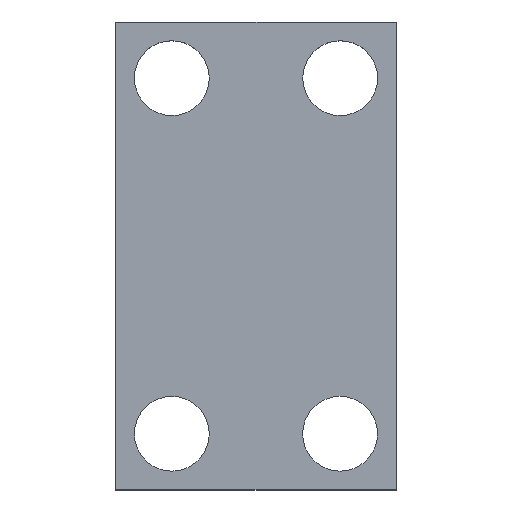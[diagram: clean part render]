
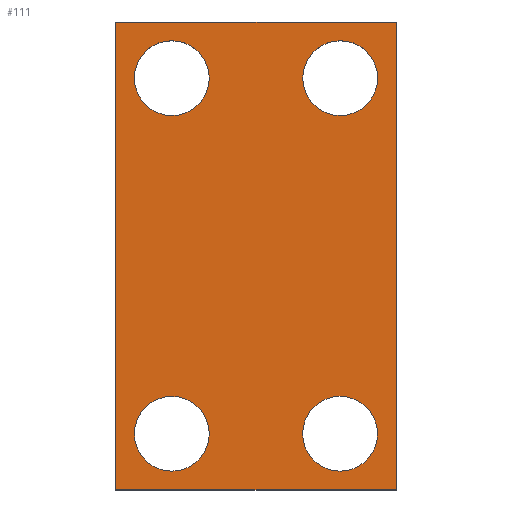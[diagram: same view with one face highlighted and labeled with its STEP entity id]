
A CAD part, top view. The second image highlights one B-rep face of the part: STEP entity #111.
In plain terms, the highlighted planar face has unit normal (0, 0, 1).
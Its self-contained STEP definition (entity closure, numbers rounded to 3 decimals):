
#111=ADVANCED_FACE('',(#126,#165,#166,#167,#168),#119,.T.);
#119=PLANE('',#310);
#126=FACE_OUTER_BOUND('',#189,.T.);
#133=LINE('',#394,#145);
#136=LINE('',#400,#148);
#138=LINE('',#404,#150);
#139=LINE('',#415,#151);
#145=VECTOR('',#333,1.);
#148=VECTOR('',#338,1.);
#150=VECTOR('',#342,1.);
#151=VECTOR('',#357,1.);
#165=FACE_BOUND('',#190,.T.);
#166=FACE_BOUND('',#191,.T.);
#167=FACE_BOUND('',#192,.T.);
#168=FACE_BOUND('',#193,.T.);
#189=EDGE_LOOP('',(#230,#231,#232,#233));
#190=EDGE_LOOP('',(#234));
#191=EDGE_LOOP('',(#235));
#192=EDGE_LOOP('',(#236));
#193=EDGE_LOOP('',(#237));
#230=ORIENTED_EDGE('',*,*,#269,.T.);
#231=ORIENTED_EDGE('',*,*,#272,.T.);
#232=ORIENTED_EDGE('',*,*,#274,.T.);
#233=ORIENTED_EDGE('',*,*,#278,.T.);
#234=ORIENTED_EDGE('',*,*,#277,.F.);
#235=ORIENTED_EDGE('',*,*,#276,.F.);
#236=ORIENTED_EDGE('',*,*,#275,.F.);
#237=ORIENTED_EDGE('',*,*,#279,.F.);
#250=VERTEX_POINT('',#393);
#251=VERTEX_POINT('',#395);
#252=VERTEX_POINT('',#399);
#253=VERTEX_POINT('',#403);
#254=VERTEX_POINT('',#407);
#255=VERTEX_POINT('',#410);
#256=VERTEX_POINT('',#413);
#257=VERTEX_POINT('',#418);
#269=EDGE_CURVE('',#251,#250,#133,.T.);
#272=EDGE_CURVE('',#250,#252,#136,.T.);
#274=EDGE_CURVE('',#252,#253,#138,.T.);
#275=EDGE_CURVE('',#254,#254,#286,.T.);
#276=EDGE_CURVE('',#255,#255,#287,.T.);
#277=EDGE_CURVE('',#256,#256,#288,.T.);
#278=EDGE_CURVE('',#253,#251,#139,.T.);
#279=EDGE_CURVE('',#257,#257,#289,.T.);
#286=CIRCLE('',#301,20.);
#287=CIRCLE('',#303,20.);
#288=CIRCLE('',#305,20.);
#289=CIRCLE('',#308,20.);
#301=AXIS2_PLACEMENT_3D('',#406,#345,#346);
#303=AXIS2_PLACEMENT_3D('',#409,#349,#350);
#305=AXIS2_PLACEMENT_3D('',#412,#353,#354);
#308=AXIS2_PLACEMENT_3D('',#417,#360,#361);
#310=AXIS2_PLACEMENT_3D('',#420,#364,#365);
#333=DIRECTION('',(0.,1.,0.));
#338=DIRECTION('',(-1.,0.,0.));
#342=DIRECTION('',(0.,-1.,0.));
#345=DIRECTION('',(0.,0.,1.));
#346=DIRECTION('',(1.,0.,0.));
#349=DIRECTION('',(0.,0.,1.));
#350=DIRECTION('',(1.,0.,0.));
#353=DIRECTION('',(0.,0.,1.));
#354=DIRECTION('',(1.,0.,0.));
#357=DIRECTION('',(1.,0.,0.));
#360=DIRECTION('',(0.,0.,1.));
#361=DIRECTION('',(1.,0.,0.));
#364=DIRECTION('',(0.,0.,1.));
#365=DIRECTION('',(1.,0.,0.));
#393=CARTESIAN_POINT('',(75.,125.,30.));
#394=CARTESIAN_POINT('',(75.,-125.,30.));
#395=CARTESIAN_POINT('',(75.,-125.,30.));
#399=CARTESIAN_POINT('',(-75.,125.,30.));
#400=CARTESIAN_POINT('',(75.,125.,30.));
#403=CARTESIAN_POINT('',(-75.,-125.,30.));
#404=CARTESIAN_POINT('',(-75.,125.,30.));
#406=CARTESIAN_POINT('',(45.,95.,30.));
#407=CARTESIAN_POINT('',(65.,95.,30.));
#409=CARTESIAN_POINT('',(44.914,-95.,30.));
#410=CARTESIAN_POINT('',(64.914,-95.,30.));
#412=CARTESIAN_POINT('',(-45.,95.,30.));
#413=CARTESIAN_POINT('',(-25.,95.,30.));
#415=CARTESIAN_POINT('',(-75.,-125.,30.));
#417=CARTESIAN_POINT('',(-45.,-95.,30.));
#418=CARTESIAN_POINT('',(-25.,-95.,30.));
#420=CARTESIAN_POINT('',(-45.,95.,30.));
